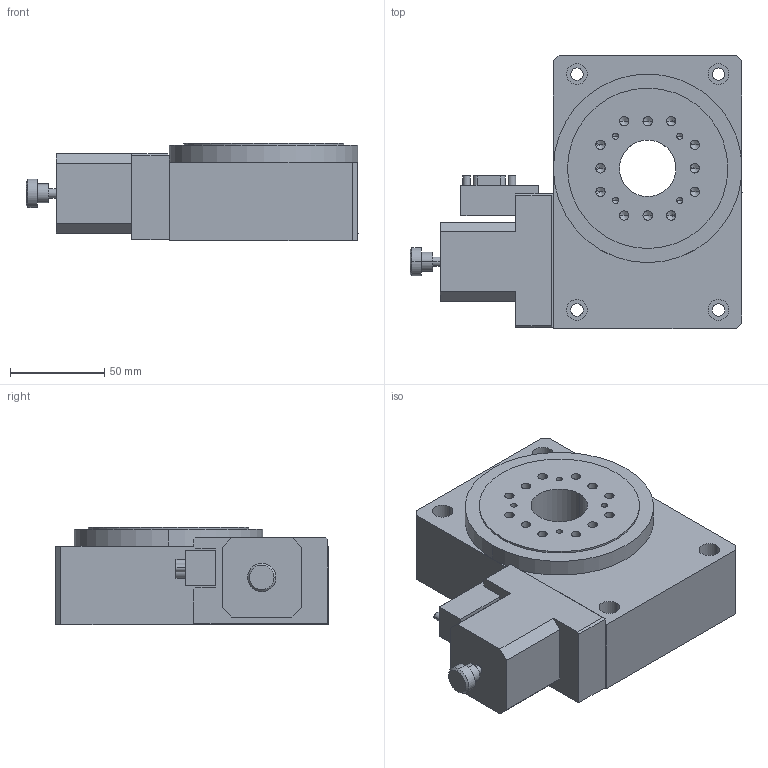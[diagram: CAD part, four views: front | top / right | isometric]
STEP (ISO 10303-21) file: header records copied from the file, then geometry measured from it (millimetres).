
FILE_DESCRIPTION (( 'STEP AP214' ), '1' );
FILE_NAME ('PX110-100H.STEP', '2022-09-17T09:01:54', ( '' ), ( '' ), 'SwSTEP 2.0', 'SolidWorks 2017', '' );
FILE_SCHEMA (( 'AUTOMOTIVE_DESIGN' ));
Length unit declared in the file: millimetre
Products named in the file (1): PX110-100H
Bounding box: 176 x 145 x 51.5 mm (x, y, z)
Volume: 765971.1 mm3; surface area: 80548.3 mm2
Topology: 1 solids, 1 shells, 356 faces, 930 edges, 589 vertices
Faces by surface type: plane 165, bspline 81, cylinder 76, cone 34
Entity records: 13743 total; most frequent: CARTESIAN_POINT 5538, ORIENTED_EDGE 1796, DIRECTION 1441, EDGE_CURVE 898, VERTEX_POINT 589, VECTOR 581, LINE 581, AXIS2_PLACEMENT_3D 430
